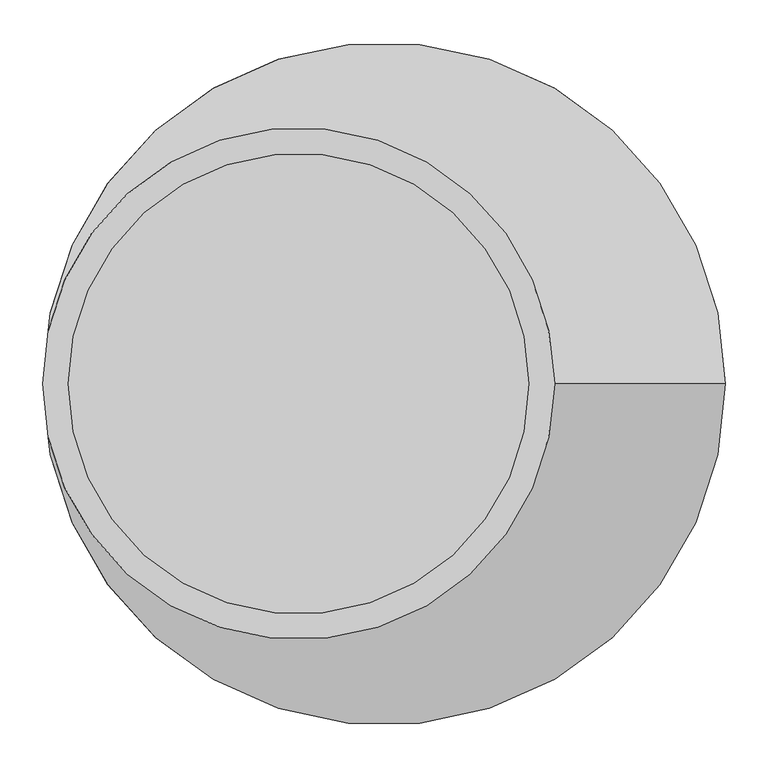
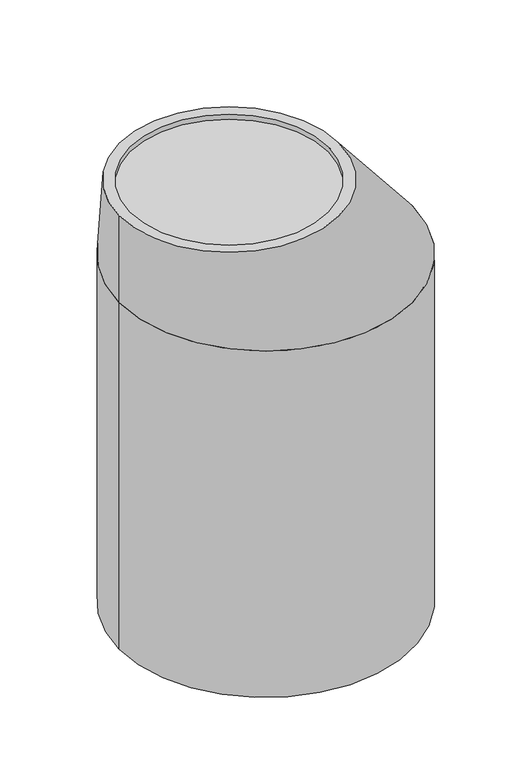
"""IFC4 building model written with IfcOpenShell, lengths in millimetres: flow terminal geometry, Versickerungsschacht : Versickerungsschacht."""

from ifc_helpers import new_model, si_unit, point, frame, frame_2d, origin, origin_with_axes, origin_2d, place, context, project, spatial, circle_curve, trimmed, segment, composite_curve, outline, extrude, source, transform, mapped, element, save
from ifc_brep_helpers import plane_surface, spline_surface, advanced_brep


def flow_terminal_e8c35260(model_context):
    return source(origin(), model_context, "Body", "SolidModel", [
        advanced_brep(
        [(-300.0, 0.0, 0.0), (300.0, 0.0, 0.0), (-270.0, 0.0, 0.0), (270.0, 0.0, 0.0), (-300.0, 0.0, -250.0), (500.0, 0.0, -250.0), (470.0, 0.0, -250.0), (-270.0, 0.0, -250.0)],
        [
            (0, 1, circle_curve(origin_with_axes(), 300.0)),
            (1, 0, circle_curve(origin_with_axes(), 300.0)),
            (2, 3, circle_curve(frame((0.0, 0.0, 0.0), z_axis=(0.0, 0.0, -1.0), x_axis=(1.0, 0.0, 0.0)), 270.0)),
            (3, 2, circle_curve(frame((0.0, 0.0, 0.0), z_axis=(0.0, 0.0, -1.0), x_axis=(1.0, 0.0, 0.0)), 270.0)),
            (4, 5, circle_curve(frame((100.0, 0.0, -250.0), z_axis=(0.0, 0.0, -1.0), x_axis=(1.0, 0.0, 0.0)), 400.0)),
            (5, 4, circle_curve(frame((100.0, 0.0, -250.0), z_axis=(0.0, 0.0, -1.0), x_axis=(1.0, 0.0, 0.0)), 400.0)),
            (6, 7, circle_curve(frame((100.0, 0.0, -250.0), z_axis=(0.0, 0.0, 1.0), x_axis=(1.0, 0.0, 0.0)), 370.0)),
            (7, 6, circle_curve(frame((100.0, 0.0, -250.0), z_axis=(0.0, 0.0, 1.0), x_axis=(1.0, 0.0, 0.0)), 370.0)),
            (0, 4),
            (5, 1),
            (6, 3),
            (2, 7),
        ],
        [
            plane_surface(frame((0.0, 0.0, 0.0), z_axis=(0.0, 0.0, 1.0), x_axis=(0.0, -1.0, 0.0))),
            plane_surface(frame((100.0, 0.0, -250.0), z_axis=(0.0, 0.0, -1.0), x_axis=(0.0, -1.0, 0.0))),
            spline_surface(2, 1, [[(-300.0, 0.0, -250.0), (-300.0, 0.0, 0.0)], [(-300.0, -400.0, -250.0), (-300.0, -300.0, 0.0)], [(100.0, -400.0, -250.0), (0.0, -300.0, 0.0)], [(500.0, -400.0, -250.0), (300.0, -300.0, 0.0)], [(500.0, 0.0, -250.0), (300.0, 0.0, 0.0)]], [3, 2, 3], [2, 2], [0.0, 1.0, 2.0], [0.0, 1.0], weights=[[1.0, 1.0], [0.7071067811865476, 0.7071067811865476], [1.0, 1.0], [0.7071067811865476, 0.7071067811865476], [1.0, 1.0]]),
            spline_surface(2, 1, [[(500.0, 0.0, -250.0), (300.0, 0.0, 0.0)], [(500.0, 400.0, -250.0), (300.0, 300.0, 0.0)], [(100.0, 400.0, -250.0), (0.0, 300.0, 0.0)], [(-300.0, 400.0, -250.0), (-300.0, 300.0, 0.0)], [(-300.0, 0.0, -250.0), (-300.0, 0.0, 0.0)]], [3, 2, 3], [2, 2], [0.0, 1.0, 2.0], [0.0, 1.0], weights=[[1.0, 1.0], [0.7071067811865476, 0.7071067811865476], [1.0, 1.0], [0.7071067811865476, 0.7071067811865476], [1.0, 1.0]]),
            spline_surface(1, 2, [[(470.0, 0.0, -250.0), (470.0, 370.0, -250.0), (100.0, 370.0, -250.0), (-270.0, 370.0, -250.0), (-270.0, 0.0, -250.0)], [(270.0, 0.0, 0.0), (270.0, 270.0, 0.0), (0.0, 270.0, 0.0), (-270.0, 270.0, 0.0), (-270.0, 0.0, 0.0)]], [2, 2], [3, 2, 3], [0.0, 1.0], [0.0, 1.0, 2.0], weights=[[1.0, 0.7071067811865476, 1.0, 0.7071067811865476, 1.0], [1.0, 0.7071067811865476, 1.0, 0.7071067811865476, 1.0]]),
            spline_surface(1, 2, [[(-270.0, 0.0, -250.0), (-270.0, -370.0, -250.0), (100.0, -370.0, -250.0), (470.0, -370.0, -250.0), (470.0, 0.0, -250.0)], [(-270.0, 0.0, 0.0), (-270.0, -270.0, 0.0), (0.0, -270.0, 0.0), (270.0, -270.0, 0.0), (270.0, 0.0, 0.0)]], [2, 2], [3, 2, 3], [0.0, 1.0], [0.0, 1.0, 2.0], weights=[[1.0, 0.7071067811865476, 1.0, 0.7071067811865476, 1.0], [1.0, 0.7071067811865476, 1.0, 0.7071067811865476, 1.0]]),
        ],
        [
            (0, [[1, 2], [3, 4]]),
            (1, [[5, 6], [7, 8]]),
            (2, [[-1, 9, -6, 10]]),
            (3, [[-2, -10, -5, -9]]),
            (4, [[11, -3, 12, -7]]),
            (5, [[-11, -8, -12, -4]]),
        ],
    ),
        extrude(outline(composite_curve([segment(trimmed(circle_curve(frame_2d((100.0, 0.0)), 370.0), [point((-270.0, 0.0))], [point((470.0, 0.0))], False, "CARTESIAN"), True, "CONTINUOUS"), segment(trimmed(circle_curve(frame_2d((100.0, 0.0)), 370.0), [point((470.0, 0.0))], [point((-270.0, 0.0))], False, "CARTESIAN"), True, "CONTINUOUS")], self_intersect=False)), frame((0.0, 0.0, -1250.0), z_axis=(0.0, 0.0, 1.0), x_axis=(1.0, 0.0, 0.0)), (0.0, 0.0, 1.0), 50.0),
        extrude(outline(composite_curve([segment(trimmed(circle_curve(origin_2d(), 270.0), [point((270.0, 0.0))], [point((-270.0, 0.0))], False, "CARTESIAN"), True, "CONTINUOUS"), segment(trimmed(circle_curve(origin_2d(), 270.0), [point((-270.0, 0.0))], [point((270.0, 0.0))], False, "CARTESIAN"), True, "CONTINUOUS")], self_intersect=False)), frame((0.0, 0.0, -518.2413723), z_axis=(0.0, 0.0, 1.0), x_axis=(1.0, 0.0, 0.0)), (0.0, 0.0, 1.0), 503.560048),
        extrude(outline(composite_curve([segment(trimmed(circle_curve(frame_2d((100.0, 0.0)), 400.0), [point((500.0, 0.0))], [point((-300.0, 0.0))], False, "CARTESIAN"), True, "CONTINUOUS"), segment(trimmed(circle_curve(frame_2d((100.0, 0.0)), 400.0), [point((-300.0, 0.0))], [point((500.0, 0.0))], False, "CARTESIAN"), True, "CONTINUOUS")], self_intersect=False), holes=[composite_curve([segment(trimmed(circle_curve(frame_2d((100.0, 0.0)), 370.0), [point((470.0, 0.0))], [point((-270.0, 0.0))], True, "CARTESIAN"), True, "CONTINUOUS"), segment(trimmed(circle_curve(frame_2d((100.0, 0.0)), 370.0), [point((-270.0, 0.0))], [point((470.0, 0.0))], True, "CARTESIAN"), True, "CONTINUOUS")], self_intersect=False)]), frame((0.0, 0.0, -1250.0), z_axis=(0.0, 0.0, 1.0), x_axis=(1.0, 0.0, 0.0)), (0.0, 0.0, 1.0), 1000.0),
    ])


if __name__ == "__main__":
    model = new_model("IFC4")
    model_context = context("Model", 3, world=origin())
    ifc_project = project(units=[si_unit("LENGTHUNIT", "METRE", prefix="MILLI")], contexts=[model_context])
    site = spatial("IfcSite", under=ifc_project)
    building = spatial("IfcBuilding", under=site)
    placement = place(None, origin())
    flow_terminal_shape = flow_terminal_e8c35260(model_context)
    element("IfcFlowTerminal", 1, ObjectType="Versickerungsschacht : Versickerungsschacht", at=placement, inside=building, context=model_context, shape_type="MappedRepresentation", body=[
        mapped(flow_terminal_shape, transform((0.0, 0.0, 0.0), x_axis=(1.0, 0.0, 0.0), y_axis=(0.0, 1.0, 0.0), z_axis=(0.0, 0.0, 1.0))),
    ])
    save(model, "model.ifc")
